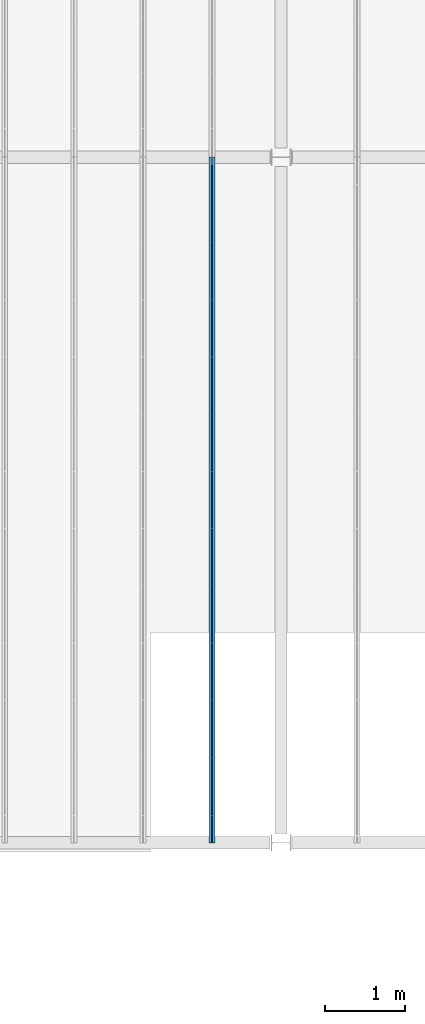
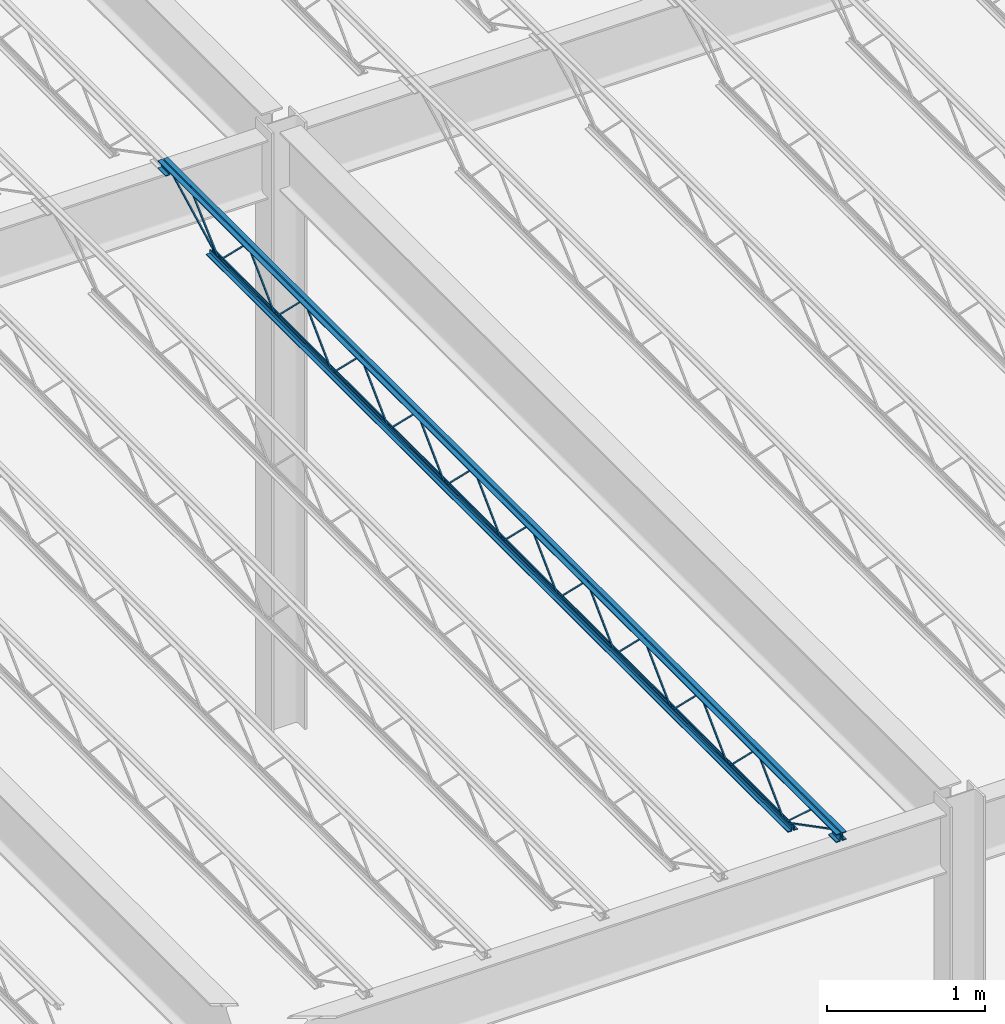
# One storey, part 50 of 119: 1 beam.
"""IFC2X3 building model written with IfcOpenShell, lengths in metres."""

from ifc_helpers import new_model, entity, si_unit, converted_unit, frame, origin, place, context, project, spatial, face_set, surface_model, element, save


model = new_model("IFC2X3")

# Units and contexts
model_context = context("Model", 3, precision=1e-09, world=origin())
plan_context = context("Plan", 3, precision=1e-09, world=origin())
ifc_project = project(units=[si_unit("LENGTHUNIT", "METRE"), si_unit("AREAUNIT", "SQUARE_METRE"), si_unit("VOLUMEUNIT", "CUBIC_METRE"), converted_unit("PLANEANGLEUNIT", "DEGREE", entity("IfcRatioMeasure", 0.01745329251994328), si_unit("PLANEANGLEUNIT", "RADIAN"), dimensions=[0, 0, 0, 0, 0, 0, 0]), si_unit("TIMEUNIT", "SECOND")], contexts=[model_context, plan_context])

# Site, building, storey
site_placement = place(None, origin())
site = spatial("IfcSite", under=ifc_project, at=site_placement, Name="Default", CompositionType="ELEMENT")
building_placement = place(site_placement, origin())
building = spatial("IfcBuilding", under=site, at=building_placement, CompositionType="ELEMENT")
storey_placement = place(building_placement, frame((0.0, 0.0, 4.570000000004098)))
storey = spatial("IfcBuildingStorey", under=building, at=storey_placement, Name="Second Floor", CompositionType="ELEMENT", Elevation=4.570000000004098)

# Beam
beam_placement = place(storey_placement, frame((-15.78006249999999, 10.03999999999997, 4.323999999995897)))
element("IfcBeam", 1, at=beam_placement, inside=storey, Name="M_K-Series Bar Joist-Rod Web:14K1:14K1", ObjectType="M_K-Series Bar Joist-Rod Web:14K1", context=model_context, shape_type="SurfaceModel", body=[
    surface_model("IfcFaceBasedSurfaceModel", [(0.04150000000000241, 6.428799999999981, 0.01110000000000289), (0.03200000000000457, 6.428799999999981, 0.01110000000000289), (0.03200000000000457, 6.428799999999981, 0.001600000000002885), (0.04150000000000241, 6.428799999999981, 0.001600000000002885), (0.0320000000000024, 6.430038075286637, 0.01110000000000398), (0.04150000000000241, 6.430038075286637, 0.01110000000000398), (0.03200000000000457, 6.433911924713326, 0.001600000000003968), (0.03200000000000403, 6.784861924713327, 0.3449000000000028), (0.03200000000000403, 6.78733807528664, 0.3449000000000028), (0.0320000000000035, 7.138288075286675, 0.001600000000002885), (0.03200000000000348, 7.143399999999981, 0.001600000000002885), (0.03200000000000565, 7.143399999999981, 0.01110000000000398), (0.03200000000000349, 7.142161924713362, 0.01110000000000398), (0.03200000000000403, 6.791211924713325, 0.3544000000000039), (0.03200000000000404, 6.780988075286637, 0.3544000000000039), (0.04150000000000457, 6.433911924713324, 0.001600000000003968), (0.04150000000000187, 6.784861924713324, 0.3449000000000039), (0.04150000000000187, 6.787338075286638, 0.3449000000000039), (0.04150000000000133, 7.138288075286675, 0.001600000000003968), (0.04150000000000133, 7.143399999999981, 0.001600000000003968), (0.04150000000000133, 7.143399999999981, 0.01110000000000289), (0.04150000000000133, 7.142161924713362, 0.01110000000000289), (0.04150000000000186, 6.791211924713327, 0.3544000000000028), (0.04150000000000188, 6.780988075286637, 0.3544000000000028), (0.04150000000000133, 5.714199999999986, 0.01110000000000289), (0.03200000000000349, 5.714199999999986, 0.01110000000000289), (0.03200000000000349, 5.714199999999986, 0.001600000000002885), (0.04150000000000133, 5.714199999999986, 0.001600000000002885), (0.03200000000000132, 5.715438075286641, 0.01110000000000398), (0.04150000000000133, 5.715438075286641, 0.01110000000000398), (0.03200000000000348, 5.719311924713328, 0.001600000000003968), (0.03200000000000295, 6.070261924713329, 0.3449000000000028), (0.03200000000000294, 6.072738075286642, 0.3449000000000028), (0.03200000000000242, 6.423688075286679, 0.001600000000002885), (0.03200000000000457, 6.428799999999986, 0.001600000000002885), (0.03200000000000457, 6.428799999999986, 0.01110000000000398), (0.03200000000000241, 6.427561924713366, 0.01110000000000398), (0.03200000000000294, 6.076611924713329, 0.3544000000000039), (0.03200000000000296, 6.066388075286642, 0.3544000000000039), (0.04150000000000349, 5.719311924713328, 0.001600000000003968), (0.04150000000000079, 6.070261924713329, 0.3449000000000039), (0.04150000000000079, 6.072738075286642, 0.3449000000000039), (0.04150000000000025, 6.423688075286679, 0.001600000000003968), (0.04150000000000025, 6.428799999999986, 0.001600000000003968), (0.04150000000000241, 6.428799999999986, 0.01110000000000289), (0.04150000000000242, 6.427561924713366, 0.01110000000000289), (0.04150000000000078, 6.076611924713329, 0.3544000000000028), (0.04150000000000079, 6.066388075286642, 0.3544000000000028), (0.04150000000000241, 4.999599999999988, 0.01110000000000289), (0.03200000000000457, 4.999599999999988, 0.01110000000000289), (0.03200000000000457, 4.999599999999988, 0.001600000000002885), (0.04150000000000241, 4.999599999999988, 0.001600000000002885), (0.0320000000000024, 5.000838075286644, 0.01110000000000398), (0.04150000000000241, 5.000838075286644, 0.01110000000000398), (0.03200000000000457, 5.00471192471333, 0.001600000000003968), (0.03200000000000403, 5.35566192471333, 0.3449000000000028), (0.03200000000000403, 5.358138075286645, 0.3449000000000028), (0.0320000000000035, 5.709088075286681, 0.001600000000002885), (0.03200000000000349, 5.714199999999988, 0.001600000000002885), (0.03200000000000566, 5.714199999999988, 0.01110000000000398), (0.03200000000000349, 5.712961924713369, 0.01110000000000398), (0.03200000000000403, 5.362011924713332, 0.3544000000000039), (0.03200000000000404, 5.351788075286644, 0.3544000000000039), (0.04150000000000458, 5.00471192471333, 0.001600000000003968), (0.04150000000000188, 5.35566192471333, 0.3449000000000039), (0.04150000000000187, 5.358138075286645, 0.3449000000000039), (0.04150000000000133, 5.709088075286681, 0.001600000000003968), (0.04150000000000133, 5.714199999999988, 0.001600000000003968), (0.04150000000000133, 5.714199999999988, 0.01110000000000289), (0.04150000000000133, 5.712961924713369, 0.01110000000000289), (0.04150000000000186, 5.362011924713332, 0.3544000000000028), (0.04150000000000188, 5.351788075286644, 0.3544000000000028), (0.04150000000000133, 4.28499999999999, 0.01110000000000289), (0.03200000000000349, 4.28499999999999, 0.01110000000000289), (0.03200000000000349, 4.28499999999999, 0.001600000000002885), (0.04150000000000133, 4.28499999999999, 0.001600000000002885), (0.03200000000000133, 4.286238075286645, 0.01110000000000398), (0.04150000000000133, 4.286238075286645, 0.01110000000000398), (0.03200000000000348, 4.290111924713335, 0.001600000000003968), (0.03200000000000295, 4.641061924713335, 0.3449000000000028), (0.03200000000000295, 4.643538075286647, 0.3449000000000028), (0.03200000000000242, 4.994488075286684, 0.001600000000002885), (0.03200000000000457, 4.999599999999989, 0.001600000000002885), (0.03200000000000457, 4.999599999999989, 0.01110000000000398), (0.03200000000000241, 4.998361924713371, 0.01110000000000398), (0.03200000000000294, 4.647411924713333, 0.3544000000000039), (0.03200000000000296, 4.637188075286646, 0.3544000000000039), (0.04150000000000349, 4.290111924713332, 0.001600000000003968), (0.04150000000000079, 4.641061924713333, 0.3449000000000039), (0.04150000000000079, 4.643538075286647, 0.3449000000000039), (0.04150000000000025, 4.994488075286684, 0.001600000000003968), (0.04150000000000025, 4.999599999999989, 0.001600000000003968), (0.04150000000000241, 4.999599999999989, 0.01110000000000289), (0.04150000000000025, 4.998361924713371, 0.01110000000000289), (0.04150000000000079, 4.647411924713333, 0.3544000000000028), (0.04150000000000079, 4.637188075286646, 0.3544000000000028), (0.04150000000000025, 3.570399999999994, 0.01110000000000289), (0.03200000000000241, 3.570399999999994, 0.01110000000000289), (0.03200000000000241, 3.570399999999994, 0.001600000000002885), (0.04150000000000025, 3.570399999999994, 0.001600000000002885), (0.03200000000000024, 3.57163807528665, 0.01110000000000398), (0.04150000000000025, 3.57163807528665, 0.01110000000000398), (0.03200000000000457, 3.575511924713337, 0.001600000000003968), (0.03200000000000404, 3.926461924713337, 0.3449000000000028), (0.03200000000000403, 3.928938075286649, 0.3449000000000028), (0.0320000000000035, 4.279888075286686, 0.001600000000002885), (0.03200000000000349, 4.284999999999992, 0.001600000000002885), (0.03200000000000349, 4.284999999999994, 0.01110000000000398), (0.03200000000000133, 4.283761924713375, 0.01110000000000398), (0.03200000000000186, 3.932811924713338, 0.3544000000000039), (0.03200000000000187, 3.92258807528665, 0.3544000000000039), (0.04150000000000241, 3.575511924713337, 0.001600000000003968), (0.04149999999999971, 3.926461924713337, 0.3449000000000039), (0.0414999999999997, 3.928938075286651, 0.3449000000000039), (0.04149999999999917, 4.279888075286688, 0.001600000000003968), (0.04149999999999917, 4.284999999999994, 0.001600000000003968), (0.04150000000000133, 4.284999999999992, 0.01110000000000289), (0.04150000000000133, 4.283761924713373, 0.01110000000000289), (0.04150000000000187, 3.932811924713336, 0.3544000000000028), (0.04150000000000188, 3.92258807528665, 0.3544000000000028), (0.04150000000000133, 2.855799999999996, 0.01110000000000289), (0.03200000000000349, 2.855799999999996, 0.01110000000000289), (0.03200000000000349, 2.855799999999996, 0.001600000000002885), (0.04150000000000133, 2.855799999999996, 0.001600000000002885), (0.03200000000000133, 2.857038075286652, 0.01110000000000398), (0.04150000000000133, 2.857038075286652, 0.01110000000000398), (0.03200000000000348, 2.860911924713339, 0.001600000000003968), (0.03200000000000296, 3.21186192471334, 0.3449000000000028), (0.03200000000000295, 3.214338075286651, 0.3449000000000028), (0.03200000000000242, 3.565288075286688, 0.001600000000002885), (0.03200000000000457, 3.570399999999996, 0.01110000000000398), (0.03200000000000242, 3.569161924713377, 0.01110000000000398), (0.03200000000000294, 3.21821192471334, 0.3544000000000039), (0.03200000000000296, 3.207988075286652, 0.3544000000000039), (0.04150000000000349, 2.860911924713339, 0.001600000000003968), (0.04150000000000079, 3.21186192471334, 0.3449000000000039), (0.04150000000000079, 3.214338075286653, 0.3449000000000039), (0.04150000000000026, 3.56528807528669, 0.001600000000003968), (0.04150000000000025, 3.570399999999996, 0.001600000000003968), (0.04150000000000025, 3.569161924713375, 0.01110000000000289), (0.04150000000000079, 3.218211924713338, 0.3544000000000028), (0.0415000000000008, 3.207988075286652, 0.3544000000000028), (0.04150000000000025, 2.141199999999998, 0.01110000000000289), (0.03200000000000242, 2.141199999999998, 0.01110000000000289), (0.03200000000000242, 2.141199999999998, 0.001600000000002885), (0.04150000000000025, 2.141199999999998, 0.001600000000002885), (0.03200000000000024, 2.142438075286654, 0.01110000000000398), (0.04150000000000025, 2.142438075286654, 0.01110000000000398), (0.03200000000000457, 2.146311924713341, 0.001600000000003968), (0.03200000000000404, 2.497261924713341, 0.3449000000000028), (0.03200000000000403, 2.499738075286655, 0.3449000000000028), (0.0320000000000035, 2.85068807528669, 0.001600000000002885), (0.03200000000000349, 2.855799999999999, 0.001600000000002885), (0.03200000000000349, 2.855799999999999, 0.01110000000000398), (0.03200000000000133, 2.85456192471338, 0.01110000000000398), (0.03200000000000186, 2.503611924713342, 0.3544000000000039), (0.03200000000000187, 2.493388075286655, 0.3544000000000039), (0.04150000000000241, 2.146311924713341, 0.001600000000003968), (0.04149999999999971, 2.497261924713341, 0.3449000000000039), (0.04149999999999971, 2.499738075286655, 0.3449000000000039), (0.04149999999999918, 2.850688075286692, 0.001600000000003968), (0.04149999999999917, 2.855799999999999, 0.001600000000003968), (0.04150000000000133, 2.855799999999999, 0.01110000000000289), (0.04150000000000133, 2.85456192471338, 0.01110000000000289), (0.04150000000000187, 2.503611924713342, 0.3544000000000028), (0.04150000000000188, 2.493388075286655, 0.3544000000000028), (0.04150000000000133, 1.426600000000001, 0.01110000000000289), (0.0320000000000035, 1.426600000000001, 0.01110000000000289), (0.0320000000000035, 1.426600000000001, 0.001600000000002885), (0.04150000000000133, 1.426600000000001, 0.001600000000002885), (0.03200000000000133, 1.427838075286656, 0.01110000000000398), (0.04150000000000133, 1.427838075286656, 0.01110000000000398), (0.03200000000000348, 1.431711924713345, 0.001600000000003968), (0.03200000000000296, 1.782661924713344, 0.3449000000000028), (0.03200000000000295, 1.785138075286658, 0.3449000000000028), (0.03200000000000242, 2.136088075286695, 0.001600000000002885), (0.03200000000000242, 2.1412, 0.001600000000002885), (0.03200000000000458, 2.1412, 0.01110000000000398), (0.03200000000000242, 2.139961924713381, 0.01110000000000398), (0.03200000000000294, 1.789011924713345, 0.3544000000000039), (0.03200000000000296, 1.778788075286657, 0.3544000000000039), (0.04150000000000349, 1.431711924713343, 0.001600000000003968), (0.04150000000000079, 1.782661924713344, 0.3449000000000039), (0.04150000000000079, 1.785138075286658, 0.3449000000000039), (0.04150000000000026, 2.136088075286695, 0.001600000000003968), (0.04150000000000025, 2.1412, 0.001600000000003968), (0.04150000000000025, 2.1412, 0.01110000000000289), (0.04150000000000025, 2.139961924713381, 0.01110000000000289), (0.04150000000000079, 1.789011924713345, 0.3544000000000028), (0.0415000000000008, 1.778788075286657, 0.3544000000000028), (0.04150000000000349, 7.143399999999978, 0.01109999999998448), (0.03200000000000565, 7.143399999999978, 0.01109999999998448), (0.03200000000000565, 7.143399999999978, 0.001599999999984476), (0.04150000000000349, 7.143399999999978, 0.001599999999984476), (0.03200000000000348, 7.144638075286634, 0.01109999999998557), (0.04150000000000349, 7.144638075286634, 0.01109999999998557), (0.03200000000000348, 7.148511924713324, 0.001599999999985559), (0.03200000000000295, 7.499461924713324, 0.3448999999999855), (0.03200000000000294, 7.501938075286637, 0.3448999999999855), (0.03200000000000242, 7.852888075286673, 0.001599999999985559), (0.03200000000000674, 7.857999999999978, 0.001599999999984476), (0.03200000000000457, 7.857999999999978, 0.01109999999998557), (0.03200000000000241, 7.85676192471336, 0.01109999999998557), (0.03200000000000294, 7.505811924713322, 0.3543999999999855), (0.03200000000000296, 7.495588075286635, 0.3543999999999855), (0.04150000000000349, 7.148511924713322, 0.001599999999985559), (0.04150000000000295, 7.499461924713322, 0.3448999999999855), (0.04150000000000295, 7.501938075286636, 0.3448999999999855), (0.04150000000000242, 7.852888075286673, 0.001599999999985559), (0.04150000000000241, 7.857999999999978, 0.001599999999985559), (0.04150000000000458, 7.857999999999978, 0.01109999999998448), (0.04150000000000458, 7.85676192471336, 0.01109999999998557), (0.04150000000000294, 7.505811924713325, 0.3543999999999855), (0.04150000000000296, 7.495588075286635, 0.3543999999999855), (0.04150000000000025, 0.7120000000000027, 0.01110000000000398), (0.03200000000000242, 0.7120000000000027, 0.01110000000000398), (0.03200000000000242, 0.7120000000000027, 0.001600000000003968), (0.04150000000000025, 0.7120000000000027, 0.001600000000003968), (0.03200000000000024, 0.7132380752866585, 0.01110000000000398), (0.04150000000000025, 0.7132380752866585, 0.01110000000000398), (0.03200000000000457, 0.7171119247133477, 0.001600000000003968), (0.03200000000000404, 1.068061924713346, 0.3449000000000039), (0.03200000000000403, 1.07053807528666, 0.3449000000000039), (0.03200000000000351, 1.421488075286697, 0.001600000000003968), (0.0320000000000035, 1.426600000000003, 0.001600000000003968), (0.0320000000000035, 1.426600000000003, 0.01110000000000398), (0.03200000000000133, 1.425361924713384, 0.01110000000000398), (0.03200000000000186, 1.074411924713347, 0.3544000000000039), (0.03200000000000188, 1.064188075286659, 0.3544000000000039), (0.04150000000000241, 0.7171119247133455, 0.001600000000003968), (0.04149999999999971, 1.068061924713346, 0.3449000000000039), (0.04149999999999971, 1.07053807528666, 0.3449000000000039), (0.04149999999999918, 1.421488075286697, 0.001600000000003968), (0.04149999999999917, 1.426600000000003, 0.001600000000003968), (0.04150000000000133, 1.426600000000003, 0.01110000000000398), (0.04150000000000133, 1.425361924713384, 0.01110000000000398), (0.04150000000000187, 1.074411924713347, 0.3544000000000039), (0.04150000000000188, 1.064188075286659, 0.3544000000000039), (0.03200000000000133, 8.569999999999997, 0.3559999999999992), (0.0, 8.569999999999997, 0.3559999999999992), (0.0, 8.569999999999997, 0.3494999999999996), (0.02550000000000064, 8.569999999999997, 0.3494999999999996), (0.02550000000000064, 8.569999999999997, 0.3239999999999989), (0.03200000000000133, 8.569999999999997, 0.3239999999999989), (0.04150000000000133, 8.569999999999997, 0.3559999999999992), (0.04150000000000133, 8.569999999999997, 0.3239999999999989), (0.04800000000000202, 8.569999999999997, 0.3239999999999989), (0.04800000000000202, 8.569999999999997, 0.3494999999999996), (0.07350000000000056, 8.569999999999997, 0.3494999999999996), (0.07350000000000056, 8.569999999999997, 0.3559999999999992), (0.03200000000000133, 0.0, 0.3559999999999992), (0.0, 0.0, 0.3559999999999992), (0.0, 0.0, 0.3494999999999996), (0.02550000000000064, 0.0, 0.3494999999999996), (0.02550000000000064, 0.0, 0.3239999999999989), (0.03200000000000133, 0.0, 0.3239999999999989), (0.04150000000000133, 0.0, 0.3559999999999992), (0.04150000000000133, 0.0, 0.3239999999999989), (0.04800000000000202, 0.0, 0.3239999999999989), (0.04800000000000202, 0.0, 0.3494999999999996), (0.07350000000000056, 0.0, 0.3494999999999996), (0.07350000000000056, 0.0, 0.3559999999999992), (0.04150000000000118, 0.09999999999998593, 0.2924999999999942), (0.07350000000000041, 0.09999999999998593, 0.2924999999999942), (0.07350000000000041, 0.09999999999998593, 0.2989999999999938), (0.04800000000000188, 0.09999999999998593, 0.2989999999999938), (0.04800000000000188, 0.09999999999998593, 0.3239999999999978), (0.04150000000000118, 0.09999999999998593, 0.3239999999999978), (0.0, 0.09999999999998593, 0.2924999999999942), (0.03200000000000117, 0.09999999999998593, 0.2924999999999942), (0.03200000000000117, 0.09999999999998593, 0.3239999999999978), (0.02550000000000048, 0.09999999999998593, 0.3239999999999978), (0.02550000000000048, 0.09999999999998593, 0.2989999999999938), (0.0, 0.09999999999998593, 0.2989999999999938), (0.04150000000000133, 0.0, 0.2924999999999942), (0.07350000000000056, 0.0, 0.2924999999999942), (0.07350000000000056, 0.0, 0.2989999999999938), (0.04800000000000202, 0.0, 0.2989999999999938), (0.04800000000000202, 0.0, 0.3239999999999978), (0.04150000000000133, 0.0, 0.3239999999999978), (0.0, 0.0, 0.2924999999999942), (0.03200000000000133, 0.0, 0.2924999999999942), (0.03200000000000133, 0.0, 0.3239999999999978), (0.02550000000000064, 0.0, 0.3239999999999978), (0.02550000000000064, 0.0, 0.2989999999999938), (0.0, 0.0, 0.2989999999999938), (0.03200000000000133, 8.569999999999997, 0.2924999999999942), (0.03200000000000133, 8.569999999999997, 0.3239999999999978), (0.0255000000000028, 8.569999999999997, 0.3239999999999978), (0.0255000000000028, 8.569999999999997, 0.2989999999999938), (0.0, 8.569999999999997, 0.2989999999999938), (0.0, 8.569999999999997, 0.2924999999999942), (0.04150000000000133, 8.569999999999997, 0.2924999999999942), (0.07350000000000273, 8.569999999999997, 0.2924999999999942), (0.07350000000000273, 8.569999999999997, 0.2989999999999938), (0.04800000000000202, 8.569999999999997, 0.2989999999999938), (0.04800000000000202, 8.569999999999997, 0.3239999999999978), (0.04150000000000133, 8.569999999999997, 0.3239999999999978), (0.03200000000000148, 8.469999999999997, 0.2924999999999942), (0.03200000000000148, 8.469999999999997, 0.3239999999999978), (0.02550000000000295, 8.469999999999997, 0.3239999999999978), (0.02550000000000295, 8.469999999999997, 0.2989999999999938), (0.0, 8.469999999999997, 0.2989999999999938), (0.0, 8.469999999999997, 0.2924999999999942), (0.04150000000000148, 8.469999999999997, 0.2924999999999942), (0.07350000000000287, 8.469999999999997, 0.2924999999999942), (0.07350000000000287, 8.469999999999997, 0.2989999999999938), (0.04800000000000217, 8.469999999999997, 0.2989999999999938), (0.04800000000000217, 8.469999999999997, 0.3239999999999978), (0.04150000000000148, 8.469999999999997, 0.3239999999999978), (0.03200000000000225, 7.958000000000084, 0.0), (0.03200000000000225, 7.958000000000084, 0.03199999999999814), (0.02550000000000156, 7.958000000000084, 0.03199999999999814), (0.02550000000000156, 7.958000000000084, 0.006499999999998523), (0.0, 7.958000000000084, 0.006499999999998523), (0.0, 7.958000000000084, 0.0), (0.04150000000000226, 7.958000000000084, 0.0), (0.07350000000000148, 7.958000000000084, 0.0), (0.07350000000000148, 7.958000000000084, 0.006499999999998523), (0.04800000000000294, 7.958000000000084, 0.006499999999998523), (0.04800000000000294, 7.958000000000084, 0.03199999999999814), (0.04150000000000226, 7.958000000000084, 0.03199999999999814), (0.0320000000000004, 0.6120000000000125, 0.0), (0.0320000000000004, 0.6120000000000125, 0.03199999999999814), (0.02549999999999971, 0.6120000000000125, 0.03199999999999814), (0.02549999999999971, 0.6120000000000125, 0.006499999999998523), (0.0, 0.6120000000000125, 0.006499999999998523), (0.0, 0.6120000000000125, 0.0), (0.04150000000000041, 0.6120000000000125, 0.0), (0.07349999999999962, 0.6120000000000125, 0.0), (0.07349999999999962, 0.6120000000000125, 0.006499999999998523), (0.04800000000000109, 0.6120000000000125, 0.006499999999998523), (0.04800000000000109, 0.6120000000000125, 0.03199999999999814), (0.04150000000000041, 0.6120000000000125, 0.03199999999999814), (0.04150000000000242, 0.7141882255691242, 0.01056594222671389), (0.03200000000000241, 0.7141882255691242, 0.01056594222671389), (0.03200000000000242, 0.7098117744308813, 0.002134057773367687), (0.04150000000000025, 0.7098117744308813, 0.00213405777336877), (0.04150000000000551, 0.101159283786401, 0.3287499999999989), (0.04150000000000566, 0.0, 0.3287499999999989), (0.0415000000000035, 0.0, 0.3192499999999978), (0.04150000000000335, 0.09884071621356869, 0.3192499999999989), (0.03200000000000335, 0.09884071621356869, 0.3192499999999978), (0.03200000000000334, 0.101159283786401, 0.3287499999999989), (0.03200000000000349, 0.0, 0.3287499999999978), (0.03200000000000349, 0.0, 0.3192499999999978), (0.04150000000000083, 0.3347428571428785, 0.3417000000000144), (0.03200000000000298, 0.3347428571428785, 0.3417000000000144), (0.03200000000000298, 0.3347428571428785, 0.3322000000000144), (0.04150000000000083, 0.3347428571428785, 0.3322000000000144), (0.0320000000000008, 0.3492758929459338, 0.3417000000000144), (0.0415000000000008, 0.3492758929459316, 0.3417000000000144), (0.03200000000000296, 0.3456098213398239, 0.3322000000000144), (0.03200000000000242, 0.7088091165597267, 0.002831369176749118), (0.03200000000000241, 0.7151908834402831, 0.009868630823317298), (0.04150000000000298, 0.3456098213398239, 0.3322000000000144), (0.04150000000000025, 0.7088091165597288, 0.002831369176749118), (0.04150000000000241, 0.7151908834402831, 0.009868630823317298), (0.04150000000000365, 8.472188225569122, 0.3197840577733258), (0.04150000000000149, 8.467811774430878, 0.328215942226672), (0.03200000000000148, 8.467811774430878, 0.328215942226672), (0.03200000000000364, 8.472188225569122, 0.3197840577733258), (0.04150000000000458, 7.860188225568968, 0.002134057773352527), (0.04150000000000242, 7.855811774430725, 0.01056594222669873), (0.03200000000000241, 7.855811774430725, 0.01056594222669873), (0.03200000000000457, 7.860188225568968, 0.002134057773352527), (0.04150000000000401, 8.233036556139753, 0.3461600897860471), (0.04150000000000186, 8.226592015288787, 0.3531399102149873), (0.03200000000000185, 8.226592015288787, 0.3531399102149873), (0.032000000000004, 8.233036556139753, 0.3461600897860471), (0.04150000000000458, 7.861222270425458, 0.00286008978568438), (0.04150000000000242, 7.854777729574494, 0.009839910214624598), (0.03200000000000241, 7.854777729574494, 0.009839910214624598), (0.03200000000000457, 7.861222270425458, 0.00286008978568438)], [face_set([[[0, 1, 2, 3]], [[1, 4, 5, 0]], [[2, 6, 7, 8, 9, 10, 11, 12, 13, 14, 4, 1]], [[3, 2, 6, 15]], [[0, 3, 15, 16, 17, 18, 19, 20, 21, 22, 23, 5]], [[4, 5, 23, 14]], [[15, 16, 7, 6]], [[14, 13, 22, 23]], [[16, 7, 8, 17]], [[13, 12, 21, 22]], [[17, 8, 9, 18]], [[20, 11, 10, 19]], [[12, 11, 20, 21]], [[18, 9, 10, 19]]]), face_set([[[24, 25, 26, 27]], [[25, 28, 29, 24]], [[26, 30, 31, 32, 33, 34, 35, 36, 37, 38, 28, 25]], [[27, 26, 30, 39]], [[24, 27, 39, 40, 41, 42, 43, 44, 45, 46, 47, 29]], [[28, 29, 47, 38]], [[39, 40, 31, 30]], [[38, 37, 46, 47]], [[40, 31, 32, 41]], [[37, 36, 45, 46]], [[41, 32, 33, 42]], [[44, 35, 34, 43]], [[36, 35, 44, 45]], [[42, 33, 34, 43]]]), face_set([[[48, 49, 50, 51]], [[49, 52, 53, 48]], [[50, 54, 55, 56, 57, 58, 59, 60, 61, 62, 52, 49]], [[51, 50, 54, 63]], [[48, 51, 63, 64, 65, 66, 67, 68, 69, 70, 71, 53]], [[52, 53, 71, 62]], [[63, 64, 55, 54]], [[62, 61, 70, 71]], [[64, 55, 56, 65]], [[61, 60, 69, 70]], [[65, 56, 57, 66]], [[68, 59, 58, 67]], [[60, 59, 68, 69]], [[66, 57, 58, 67]]]), face_set([[[72, 73, 74, 75]], [[73, 76, 77, 72]], [[74, 78, 79, 80, 81, 82, 83, 84, 85, 86, 76, 73]], [[75, 74, 78, 87]], [[72, 75, 87, 88, 89, 90, 91, 92, 93, 94, 95, 77]], [[76, 77, 95, 86]], [[87, 88, 79, 78]], [[86, 85, 94, 95]], [[88, 79, 80, 89]], [[85, 84, 93, 94]], [[89, 80, 81, 90]], [[92, 83, 82, 91]], [[84, 83, 92, 93]], [[90, 81, 82, 91]]]), face_set([[[96, 97, 98, 99]], [[97, 100, 101, 96]], [[98, 102, 103, 104, 105, 106, 107, 108, 109, 110, 100, 97]], [[99, 98, 102, 111]], [[96, 99, 111, 112, 113, 114, 115, 116, 117, 118, 119, 101]], [[100, 101, 119, 110]], [[111, 112, 103, 102]], [[110, 109, 118, 119]], [[112, 103, 104, 113]], [[109, 108, 117, 118]], [[113, 104, 105, 114]], [[116, 107, 106, 115]], [[108, 107, 116, 117]], [[114, 105, 106, 115]]]), face_set([[[120, 121, 122, 123]], [[121, 124, 125, 120]], [[122, 126, 127, 128, 129, 98, 130, 131, 132, 133, 124, 121]], [[123, 122, 126, 134]], [[120, 123, 134, 135, 136, 137, 138, 96, 139, 140, 141, 125]], [[124, 125, 141, 133]], [[134, 135, 127, 126]], [[133, 132, 140, 141]], [[135, 127, 128, 136]], [[132, 131, 139, 140]], [[136, 128, 129, 137]], [[96, 130, 98, 138]], [[131, 130, 96, 139]], [[137, 129, 98, 138]]]), face_set([[[142, 143, 144, 145]], [[143, 146, 147, 142]], [[144, 148, 149, 150, 151, 152, 153, 154, 155, 156, 146, 143]], [[145, 144, 148, 157]], [[142, 145, 157, 158, 159, 160, 161, 162, 163, 164, 165, 147]], [[146, 147, 165, 156]], [[157, 158, 149, 148]], [[156, 155, 164, 165]], [[158, 149, 150, 159]], [[155, 154, 163, 164]], [[159, 150, 151, 160]], [[162, 153, 152, 161]], [[154, 153, 162, 163]], [[160, 151, 152, 161]]]), face_set([[[166, 167, 168, 169]], [[167, 170, 171, 166]], [[168, 172, 173, 174, 175, 176, 177, 178, 179, 180, 170, 167]], [[169, 168, 172, 181]], [[166, 169, 181, 182, 183, 184, 185, 186, 187, 188, 189, 171]], [[170, 171, 189, 180]], [[181, 182, 173, 172]], [[180, 179, 188, 189]], [[182, 173, 174, 183]], [[179, 178, 187, 188]], [[183, 174, 175, 184]], [[186, 177, 176, 185]], [[178, 177, 186, 187]], [[184, 175, 176, 185]]]), face_set([[[190, 191, 192, 193]], [[191, 194, 195, 190]], [[192, 196, 197, 198, 199, 200, 201, 202, 203, 204, 194, 191]], [[193, 192, 196, 205]], [[190, 193, 205, 206, 207, 208, 209, 210, 211, 212, 213, 195]], [[194, 195, 213, 204]], [[205, 206, 197, 196]], [[204, 203, 212, 213]], [[206, 197, 198, 207]], [[203, 202, 211, 212]], [[207, 198, 199, 208]], [[210, 201, 200, 209]], [[202, 201, 210, 211]], [[208, 199, 200, 209]]]), face_set([[[214, 215, 216, 217]], [[215, 218, 219, 214]], [[216, 220, 221, 222, 223, 224, 225, 226, 227, 228, 218, 215]], [[217, 216, 220, 229]], [[214, 217, 229, 230, 231, 232, 233, 234, 235, 236, 237, 219]], [[218, 219, 237, 228]], [[229, 230, 221, 220]], [[228, 227, 236, 237]], [[230, 221, 222, 231]], [[227, 226, 235, 236]], [[231, 222, 223, 232]], [[234, 225, 224, 233]], [[226, 225, 234, 235]], [[232, 223, 224, 233]]]), face_set([[[238, 239, 240, 241, 242, 243]], [[244, 245, 246, 247, 248, 249]], [[250, 251, 252, 253, 254, 255]], [[256, 257, 258, 259, 260, 261]], [[243, 238, 250, 255]], [[242, 243, 255, 254]], [[241, 253, 254, 242]], [[240, 241, 253, 252]], [[239, 251, 252, 240]], [[238, 250, 251, 239]], [[249, 261, 256, 244]], [[248, 249, 261, 260]], [[247, 248, 260, 259]], [[246, 247, 259, 258]], [[245, 246, 258, 257]], [[244, 256, 257, 245]]]), face_set([[[262, 263, 264, 265, 266, 267]], [[268, 269, 270, 271, 272, 273]], [[274, 275, 276, 277, 278, 279]], [[280, 281, 282, 283, 284, 285]], [[267, 279, 274, 262]], [[266, 278, 279, 267]], [[265, 266, 278, 277]], [[264, 276, 277, 265]], [[263, 264, 276, 275]], [[262, 263, 275, 274]], [[273, 285, 280, 268]], [[272, 284, 285, 273]], [[271, 283, 284, 272]], [[270, 282, 283, 271]], [[269, 270, 282, 281]], [[268, 269, 281, 280]]]), face_set([[[286, 287, 288, 289, 290, 291]], [[292, 293, 294, 295, 296, 297]], [[298, 299, 300, 301, 302, 303]], [[304, 305, 306, 307, 308, 309]], [[291, 286, 298, 303]], [[290, 302, 303, 291]], [[289, 301, 302, 290]], [[288, 300, 301, 289]], [[287, 299, 300, 288]], [[286, 287, 299, 298]], [[297, 309, 304, 292]], [[296, 308, 309, 297]], [[295, 296, 308, 307]], [[294, 306, 307, 295]], [[293, 294, 306, 305]], [[292, 293, 305, 304]]]), face_set([[[310, 311, 312, 313, 314, 315]], [[316, 317, 318, 319, 320, 321]], [[322, 323, 324, 325, 326, 327]], [[328, 329, 330, 331, 332, 333]], [[315, 310, 322, 327]], [[314, 326, 327, 315]], [[313, 325, 326, 314]], [[312, 324, 325, 313]], [[311, 323, 324, 312]], [[310, 311, 323, 322]], [[321, 333, 328, 316]], [[320, 332, 333, 321]], [[319, 320, 332, 331]], [[318, 330, 331, 319]], [[317, 318, 330, 329]], [[316, 317, 329, 328]]]), face_set([[[334, 335, 336, 337]], [[337, 334, 338, 339, 340, 341]], [[336, 337, 341, 342]], [[335, 343, 344, 345, 342, 336]], [[334, 338, 343, 335]], [[339, 344, 345, 340]], [[342, 341, 340, 345]], [[338, 339, 344, 343]]]), face_set([[[346, 347, 348, 349]], [[347, 350, 351, 346]], [[348, 352, 353, 354, 350, 347]], [[349, 348, 352, 355]], [[346, 349, 355, 356, 357, 351]], [[357, 354, 353, 356]], [[350, 354, 357, 351]], [[355, 352, 353, 356]]]), face_set([[[358, 359, 360, 361]], [[362, 363, 364, 365]], [[361, 358, 362, 365]], [[360, 364, 365, 361]], [[359, 363, 364, 360]], [[358, 359, 363, 362]]]), face_set([[[366, 367, 368, 369]], [[370, 371, 372, 373]], [[369, 373, 370, 366]], [[368, 372, 373, 369]], [[367, 368, 372, 371]], [[366, 367, 371, 370]]])]),
])

save(model, "model.ifc")
